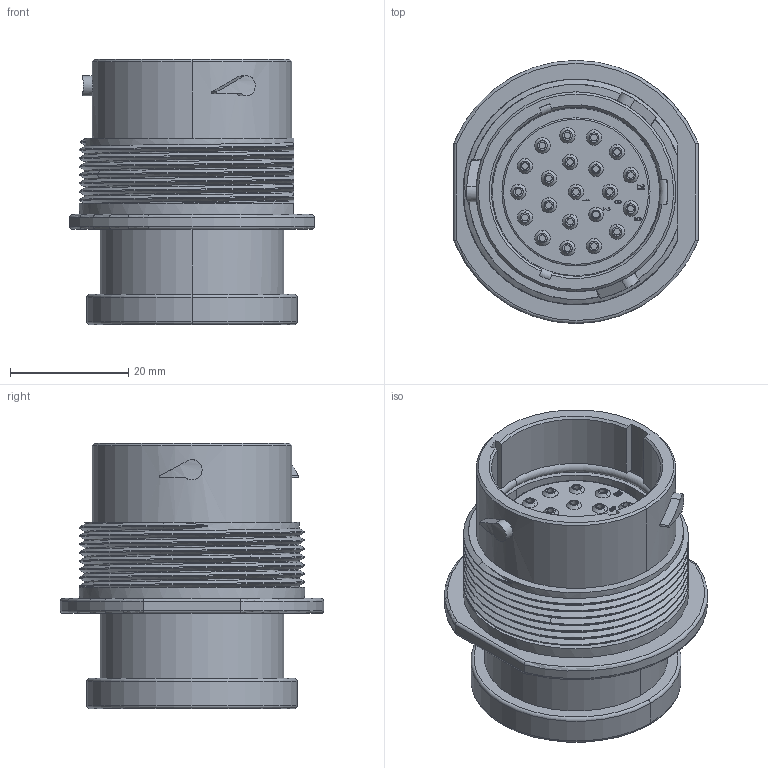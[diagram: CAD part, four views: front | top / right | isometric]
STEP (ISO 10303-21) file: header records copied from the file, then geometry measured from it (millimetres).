
FILE_DESCRIPTION((''),'2;1');
FILE_NAME('C-HDP24-18-21PN-L017','2013-06-15T',('workeradm'),('Tyco Electronics Ltd.'),'PRO/ENGINEER BY PARAMETRIC TECHNOLOGY CORPORATION, 2011490','PRO/ENGINEER BY PARAMETRIC TECHNOLOGY CORPORATION, 2011490','');
FILE_SCHEMA(('AUTOMOTIVE_DESIGN { 1 0 10303 214 1 1 1 1 }'));
Length unit declared in the file: millimetre
Products named in the file (1): C-HDP24-18-21PN-L017
Bounding box: 41.27 x 44.45 x 44.75 mm (x, y, z)
Volume: 32816.8 mm3; surface area: 11787.6 mm2
Topology: 1 solids, 1 shells, 623 faces, 1485 edges, 966 vertices
Faces by surface type: plane 319, cylinder 173, torus 54, cone 49, bspline 28
Entity records: 27143 total; most frequent: CARTESIAN_POINT 12163, DIRECTION 3068, ORIENTED_EDGE 2970, EDGE_CURVE 1485, AXIS2_PLACEMENT_3D 1100, VERTEX_POINT 966, VECTOR 868, LINE 868
